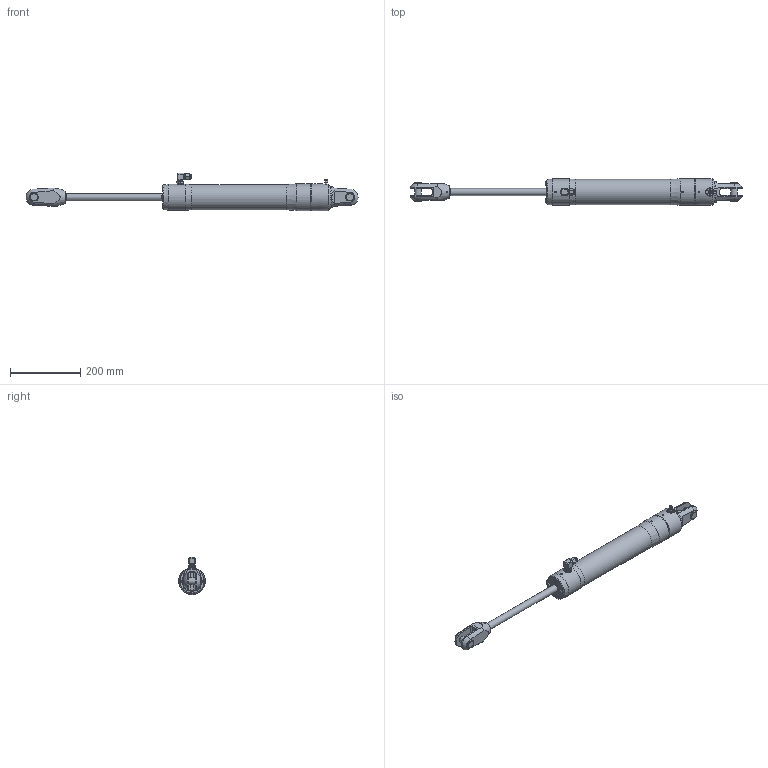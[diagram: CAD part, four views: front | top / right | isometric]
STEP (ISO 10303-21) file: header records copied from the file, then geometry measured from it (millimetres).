
FILE_DESCRIPTION(/* description */ (''),/* implementation_level */ '2;1');
FILE_NAME(/* name */ 'Q:\AA BRAND HYDRAULICS\HYDRAULICS FAMILY DIRECTORY\HYDRAULICS\CYLINDERS\RAMS\STAINLESS - STANDARD SINGLE ACTING (-0006 To -0260)\RSS-0022-S0275-NP-71\RSS-0022-S0275-NP-71 (Open).stp',/* time_stamp */ '2018-02-07T13:47:35+00:00',/* author */ ('Lorena'),/* organization */ (''),/* preprocessor_version */ 'ST-DEVELOPER v17',/* originating_system */ 'Autodesk Inventor 2018',/* authorisation */ '');
FILE_SCHEMA (('AUTOMOTIVE_DESIGN { 1 0 10303 214 3 1 1 }'));
Length unit declared in the file: millimetre
Products named in the file (1): RSS-0022-S0275-NP-71 (Open)
Bounding box: 943.68 x 76.2 x 106 mm (x, y, z)
Volume: 2352150.6 mm3; surface area: 180417.5 mm2
Topology: 2 solids, 4 shells, 1765 faces, 4760 edges, 3150 vertices
Faces by surface type: plane 997, bspline 574, cone 108, cylinder 78, sphere 4, torus 4
Full cylindrical faces by diameter (mm): 4 x1, 4.2 x2, 4.4 x1, 5 x2, 5.1 x1, 7 x1, 9 x1, 10 x2, 11.11 x1, 11.157 x1, 11.5 x1, 11.8 x1, 12 x3, 12.157 x1, 13 x1, 13.157 x2, 14.5 x2, 18.3 x3, 19.05 x2, 20 x1, 22 x2, 23.812 x2, 69.6 x1, 71.2 x1, 74.2 x1, 75.2 x1, 76.2 x2
Entity records: 62830 total; most frequent: CARTESIAN_POINT 20787, ORIENTED_EDGE 9502, DIRECTION 6217, EDGE_CURVE 4751, VERTEX_POINT 3151, LINE 2951, VECTOR 2951, EDGE_LOOP 1930
